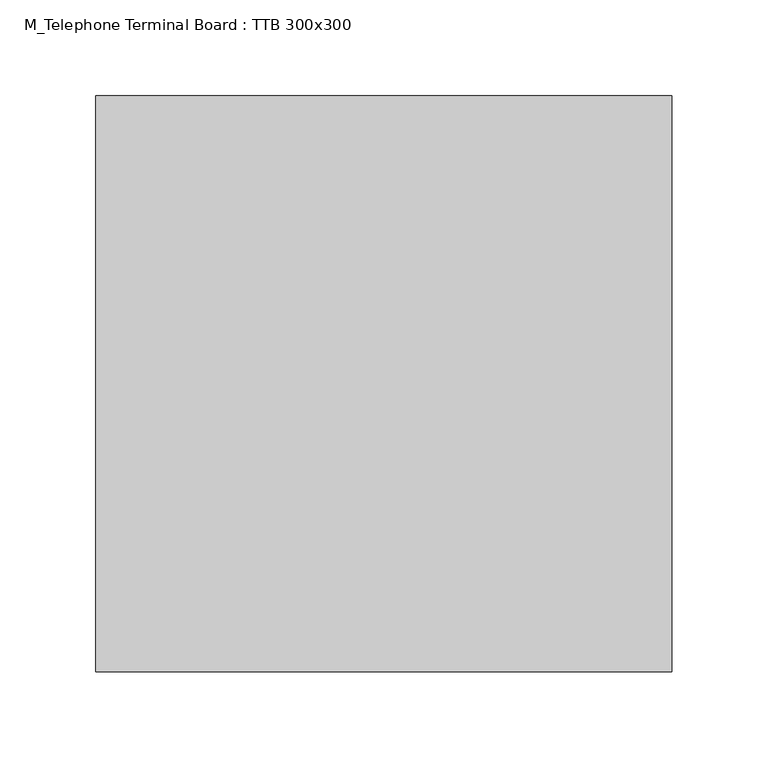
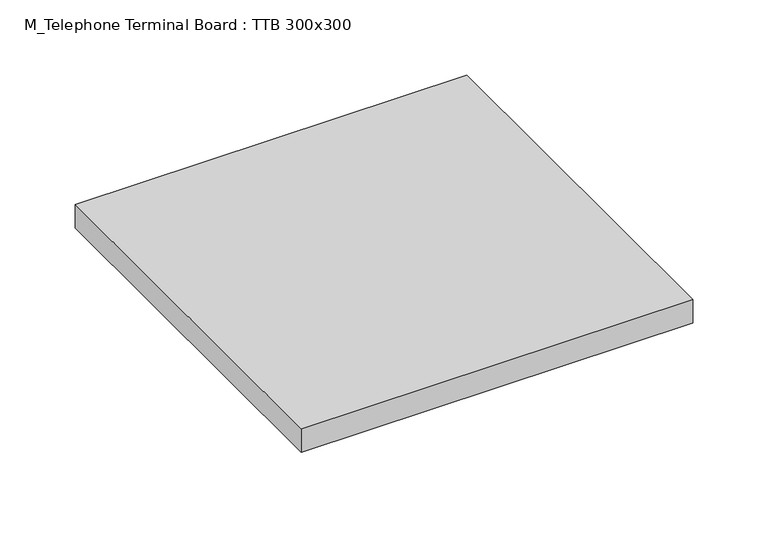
"""IFC4 building model written with IfcOpenShell, lengths in millimetres: electric appliance geometry, M_Telephone Terminal Board : TTB 300x300."""

from ifc_helpers import new_model, si_unit, point, frame, frame_2d, origin, origin_with_axes, place, context, project, spatial, polyline, circle_curve, trimmed, segment, composite_curve, outline, extrude, source, transform, mapped, element, save


def m_telephone_terminal_board_ttb_300x300_b62f54d5(model_context):
    return source(origin(), model_context, "Body", "SweptSolid", [
        extrude(outline(composite_curve([segment(trimmed(circle_curve(frame_2d((73.8, -73.8)), 25.4), [point((99.2, -73.8))], [point((48.4, -73.8))], False, "CARTESIAN"), True, "CONTINUOUS"), segment(trimmed(circle_curve(frame_2d((73.8, -73.8)), 25.4), [point((48.4, -73.8))], [point((99.2, -73.8))], False, "CARTESIAN"), True, "CONTINUOUS")], self_intersect=False)), origin_with_axes(), (0.0, 0.0, 1.0), 25.0),
        extrude(outline(composite_curve([segment(trimmed(circle_curve(frame_2d((73.8, 73.8)), 25.4), [point((99.2, 73.8))], [point((48.4, 73.8))], False, "CARTESIAN"), True, "CONTINUOUS"), segment(trimmed(circle_curve(frame_2d((73.8, 73.8)), 25.4), [point((48.4, 73.8))], [point((99.2, 73.8))], False, "CARTESIAN"), True, "CONTINUOUS")], self_intersect=False)), origin_with_axes(), (0.0, 0.0, 1.0), 25.0),
        extrude(outline(composite_curve([segment(trimmed(circle_curve(frame_2d((-73.8, -73.8)), 25.4), [point((-99.2, -73.8))], [point((-48.4, -73.8))], False, "CARTESIAN"), True, "CONTINUOUS"), segment(trimmed(circle_curve(frame_2d((-73.8, -73.8)), 25.4), [point((-48.4, -73.8))], [point((-99.2, -73.8))], False, "CARTESIAN"), True, "CONTINUOUS")], self_intersect=False)), origin_with_axes(), (0.0, 0.0, 1.0), 25.0),
        extrude(outline(composite_curve([segment(trimmed(circle_curve(frame_2d((-73.8, 73.8)), 25.4), [point((-99.2, 73.8))], [point((-48.4, 73.8))], False, "CARTESIAN"), True, "CONTINUOUS"), segment(trimmed(circle_curve(frame_2d((-73.8, 73.8)), 25.4), [point((-48.4, 73.8))], [point((-99.2, 73.8))], False, "CARTESIAN"), True, "CONTINUOUS")], self_intersect=False)), origin_with_axes(), (0.0, 0.0, 1.0), 25.0),
        extrude(outline(polyline([(150.0, 150.0), (150.0, -150.0), (-150.0, -150.0), (-150.0, 150.0), (150.0, 150.0)])), frame((0.0, 0.0, 25.0), z_axis=(0.0, 0.0, 1.0), x_axis=(1.0, 0.0, 0.0)), (0.0, 0.0, 1.0), 19.0),
    ])


if __name__ == "__main__":
    model = new_model("IFC4")
    model_context = context("Model", 3, world=origin())
    ifc_project = project(units=[si_unit("LENGTHUNIT", "METRE", prefix="MILLI")], contexts=[model_context])
    site = spatial("IfcSite", under=ifc_project)
    building = spatial("IfcBuilding", under=site)
    placement = place(None, origin())
    m_telephone_terminal_board_ttb_300x300_shape = m_telephone_terminal_board_ttb_300x300_b62f54d5(model_context)
    element("IfcElectricAppliance", 1, ObjectType="M_Telephone Terminal Board : TTB 300x300", at=placement, inside=building, context=model_context, shape_type="MappedRepresentation", body=[
        mapped(m_telephone_terminal_board_ttb_300x300_shape, transform((0.0, 0.0, 0.0), x_axis=(1.0, 0.0, 0.0), y_axis=(0.0, 1.0, 0.0), z_axis=(0.0, 0.0, 1.0))),
    ])
    save(model, "model.ifc")
